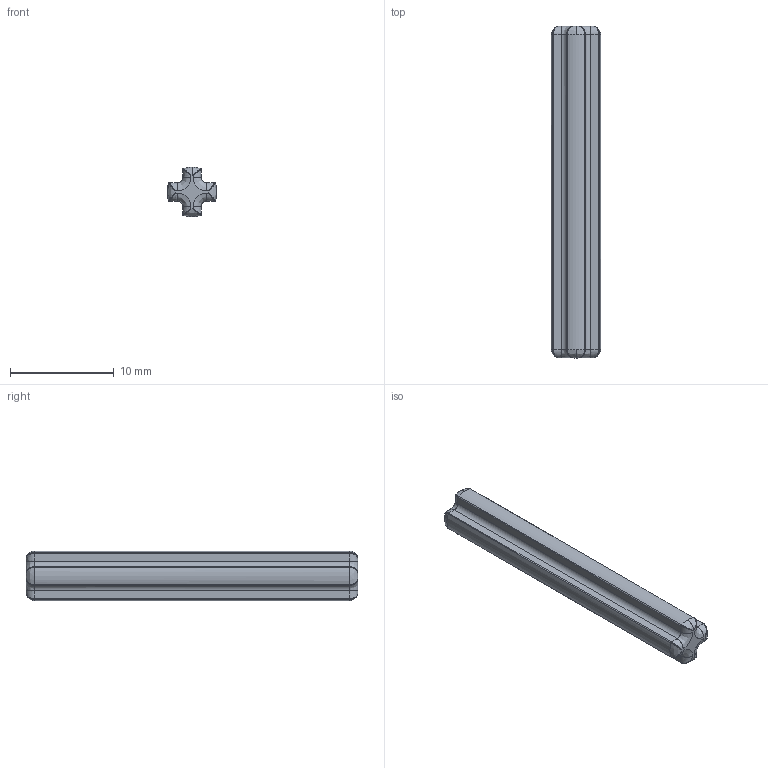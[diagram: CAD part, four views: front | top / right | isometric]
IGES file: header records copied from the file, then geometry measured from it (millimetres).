
Start section: C
Global section: file name: Black_370526_JCA.iges; native system: By Siemens PLM Incorporated; preprocessor: XPlus GENERIC/IGES 26.1.183; author: Author; organization: Title; date: 20250721.234238; units: millimetre
Bounding box: 4.8 x 32 x 4.8 mm (x, y, z)
Surface area: 558.8 mm2 (no closed solid volume)
Topology: 0 solids, 0 shells, 77 faces, 338 edges, 322 vertices
Faces by surface type: bspline 77
